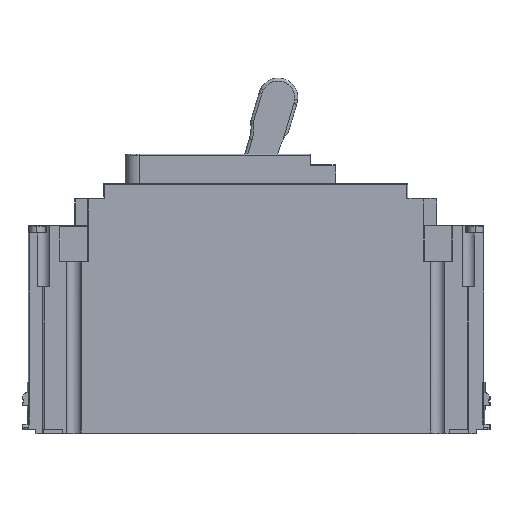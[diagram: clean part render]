
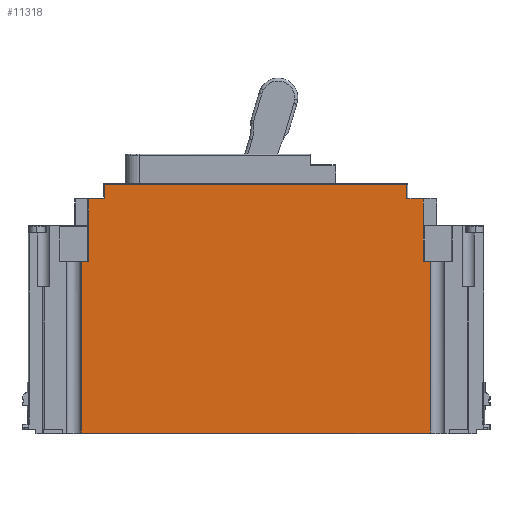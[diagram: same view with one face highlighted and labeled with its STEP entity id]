
A CAD part, left-side view. The second image highlights one B-rep face of the part: STEP entity #11318.
In plain terms, the highlighted planar face has unit normal (-1, 0, 0).
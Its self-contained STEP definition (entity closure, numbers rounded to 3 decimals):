
#422=DIRECTION('',(0.,1.,0.));
#423=VECTOR('',#422,2.548);
#424=CARTESIAN_POINT('',(0.,137.81,59.2));
#425=LINE('',#424,#423);
#1250=DIRECTION('',(0.,1.,0.));
#1251=VECTOR('',#1250,2.341);
#1252=CARTESIAN_POINT('',(0.,20.549,59.2));
#1253=LINE('',#1252,#1251);
#1330=DIRECTION('',(0.,1.,0.));
#1331=VECTOR('',#1330,119.809);
#1332=CARTESIAN_POINT('',(0.,20.549,0.3));
#1333=LINE('',#1332,#1331);
#1334=DIRECTION('',(0.,0.,1.));
#1335=VECTOR('',#1334,58.9);
#1336=CARTESIAN_POINT('',(0.,140.358,0.3));
#1337=LINE('',#1336,#1335);
#1338=DIRECTION('',(0.,0.,1.));
#1339=VECTOR('',#1338,21.5);
#1340=CARTESIAN_POINT('',(0.,137.81,59.2));
#1341=LINE('',#1340,#1339);
#1342=DIRECTION('',(0.,1.,0.));
#1343=VECTOR('',#1342,5.5);
#1344=CARTESIAN_POINT('',(0.,132.31,80.7));
#1345=LINE('',#1344,#1343);
#1346=DIRECTION('',(0.,0.,-1.));
#1347=VECTOR('',#1346,5.);
#1348=CARTESIAN_POINT('',(0.,132.31,85.7));
#1349=LINE('',#1348,#1347);
#1350=DIRECTION('',(0.,1.,0.));
#1351=VECTOR('',#1350,103.8);
#1352=CARTESIAN_POINT('',(0.,28.51,85.7));
#1353=LINE('',#1352,#1351);
#1354=DIRECTION('',(0.,0.,1.));
#1355=VECTOR('',#1354,5.);
#1356=CARTESIAN_POINT('',(0.,28.51,80.7));
#1357=LINE('',#1356,#1355);
#1358=DIRECTION('',(0.,1.,0.));
#1359=VECTOR('',#1358,5.5);
#1360=CARTESIAN_POINT('',(0.,23.01,80.7));
#1361=LINE('',#1360,#1359);
#1362=DIRECTION('',(0.,0.,-1.));
#1363=VECTOR('',#1362,9.2);
#1364=CARTESIAN_POINT('',(0.,23.01,80.7));
#1365=LINE('',#1364,#1363);
#1366=DIRECTION('',(0.,-1.,0.));
#1367=VECTOR('',#1366,0.12);
#1368=CARTESIAN_POINT('',(0.,23.01,71.5));
#1369=LINE('',#1368,#1367);
#1370=DIRECTION('',(0.,0.,1.));
#1371=VECTOR('',#1370,12.3);
#1372=CARTESIAN_POINT('',(0.,22.89,59.2));
#1373=LINE('',#1372,#1371);
#1380=CARTESIAN_POINT('',(0.,140.358,0.3));
#5304=DIRECTION('',(0.,0.,1.));
#5305=VECTOR('',#5304,58.9);
#5306=CARTESIAN_POINT('',(0.,20.549,0.3));
#5307=LINE('',#5306,#5305);
#8140=CARTESIAN_POINT('',(0.,140.358,59.2));
#8142=VERTEX_POINT('',#8140);
#9074=CARTESIAN_POINT('',(0.,20.549,59.2));
#9076=VERTEX_POINT('',#9074);
#9360=CARTESIAN_POINT('',(0.,28.51,80.7));
#9361=CARTESIAN_POINT('',(0.,28.51,85.7));
#9362=VERTEX_POINT('',#9360);
#9363=VERTEX_POINT('',#9361);
#9368=CARTESIAN_POINT('',(0.,132.31,85.7));
#9369=VERTEX_POINT('',#9368);
#9374=CARTESIAN_POINT('',(0.,137.81,59.2));
#9375=CARTESIAN_POINT('',(0.,137.81,80.7));
#9376=VERTEX_POINT('',#9374);
#9377=VERTEX_POINT('',#9375);
#9392=CARTESIAN_POINT('',(0.,132.31,80.7));
#9393=VERTEX_POINT('',#9392);
#9679=CARTESIAN_POINT('',(0.,23.01,80.7));
#9680=CARTESIAN_POINT('',(0.,23.01,71.5));
#9681=VERTEX_POINT('',#9679);
#9682=VERTEX_POINT('',#9680);
#9689=CARTESIAN_POINT('',(0.,22.89,71.5));
#9690=VERTEX_POINT('',#9689);
#9695=CARTESIAN_POINT('',(0.,22.89,59.2));
#9696=VERTEX_POINT('',#9695);
#9891=VERTEX_POINT('',#1380);
#9892=CARTESIAN_POINT('',(0.,20.549,0.3));
#9893=VERTEX_POINT('',#9892);
#11287=CARTESIAN_POINT('',(0.,140.358,0.));
#11288=DIRECTION('',(-1.,0.,0.));
#11289=DIRECTION('',(0.,-1.,0.));
#11290=AXIS2_PLACEMENT_3D('',#11287,#11288,#11289);
#11291=PLANE('',#11290);
#11293=ORIENTED_EDGE('',*,*,#11292,.T.);
#11295=ORIENTED_EDGE('',*,*,#11294,.T.);
#11296=ORIENTED_EDGE('',*,*,#10418,.F.);
#11298=ORIENTED_EDGE('',*,*,#11297,.T.);
#11300=ORIENTED_EDGE('',*,*,#11299,.F.);
#11302=ORIENTED_EDGE('',*,*,#11301,.F.);
#11304=ORIENTED_EDGE('',*,*,#11303,.F.);
#11306=ORIENTED_EDGE('',*,*,#11305,.F.);
#11308=ORIENTED_EDGE('',*,*,#11307,.F.);
#11310=ORIENTED_EDGE('',*,*,#11309,.T.);
#11311=ORIENTED_EDGE('',*,*,#10616,.T.);
#11312=ORIENTED_EDGE('',*,*,#11282,.F.);
#11313=ORIENTED_EDGE('',*,*,#11176,.F.);
#11315=ORIENTED_EDGE('',*,*,#11314,.F.);
#11316=EDGE_LOOP('',(#11293,#11295,#11296,#11298,#11300,#11302,#11304,#11306,
#11308,#11310,#11311,#11312,#11313,#11315));
#11317=FACE_OUTER_BOUND('',#11316,.F.);
#11318=ADVANCED_FACE('',(#11317),#11291,.T.);
#10418=EDGE_CURVE('',#9376,#8142,#425,.T.);
#10616=EDGE_CURVE('',#9682,#9690,#1369,.T.);
#11176=EDGE_CURVE('',#9076,#9696,#1253,.T.);
#11282=EDGE_CURVE('',#9696,#9690,#1373,.T.);
#11292=EDGE_CURVE('',#9893,#9891,#1333,.T.);
#11294=EDGE_CURVE('',#9891,#8142,#1337,.T.);
#11297=EDGE_CURVE('',#9376,#9377,#1341,.T.);
#11299=EDGE_CURVE('',#9393,#9377,#1345,.T.);
#11301=EDGE_CURVE('',#9369,#9393,#1349,.T.);
#11303=EDGE_CURVE('',#9363,#9369,#1353,.T.);
#11305=EDGE_CURVE('',#9362,#9363,#1357,.T.);
#11307=EDGE_CURVE('',#9681,#9362,#1361,.T.);
#11309=EDGE_CURVE('',#9681,#9682,#1365,.T.);
#11314=EDGE_CURVE('',#9893,#9076,#5307,.T.);
